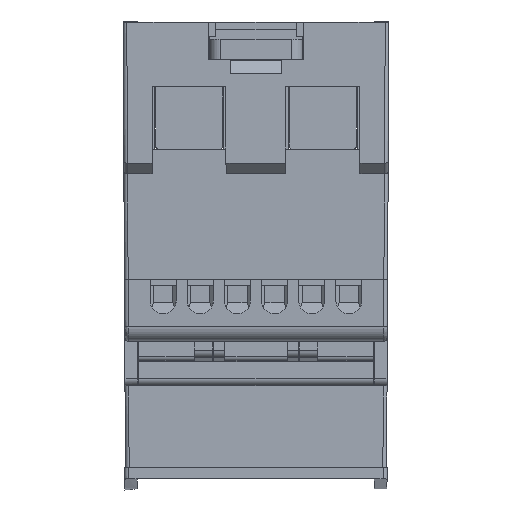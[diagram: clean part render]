
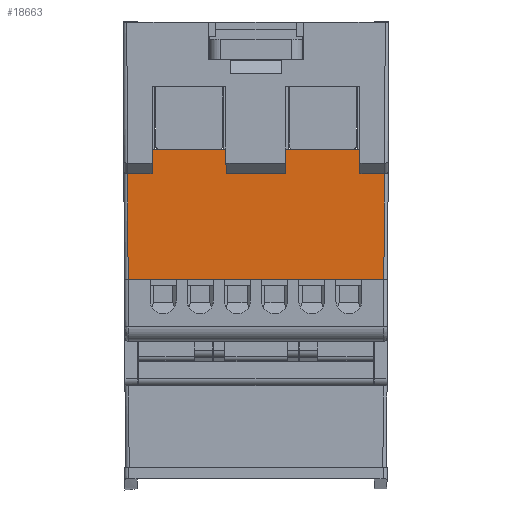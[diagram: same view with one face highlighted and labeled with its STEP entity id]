
A CAD part, front view. The second image highlights one B-rep face of the part: STEP entity #18663.
In plain terms, the highlighted planar face has unit normal (0, -1, -0.018).
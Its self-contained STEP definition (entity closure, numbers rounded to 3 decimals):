
#316=CARTESIAN_POINT('',(-17.218,-43.213,-34.7));
#329=CARTESIAN_POINT('',(17.218,-43.213,-34.7));
#2131=DIRECTION('',(-1.,0.,0.));
#2132=VECTOR('',#2131,3.294);
#2133=CARTESIAN_POINT('',(17.294,-43.462,
-20.43));
#2134=LINE('',#2133,#2132);
#2152=DIRECTION('',(-1.,0.,0.));
#2153=VECTOR('',#2152,3.294);
#2154=CARTESIAN_POINT('',(-14.,-43.462,-20.43));
#2155=LINE('',#2154,#2153);
#2173=DIRECTION('',(-1.,0.,0.));
#2174=VECTOR('',#2173,7.993);
#2175=CARTESIAN_POINT('',(4.,-43.462,-20.43));
#2176=LINE('',#2175,#2174);
#2180=DIRECTION('',(0.001,0.017,-1.));
#2181=VECTOR('',#2180,3.231);
#2182=CARTESIAN_POINT('',(-3.995,-43.518,-17.2));
#2183=LINE('',#2182,#2181);
#2187=DIRECTION('',(0.,0.017,-1.));
#2188=VECTOR('',#2187,3.231);
#2189=CARTESIAN_POINT('',(4.,-43.518,-17.2));
#2190=LINE('',#2189,#2188);
#2194=DIRECTION('',(-1.,0.,0.));
#2195=VECTOR('',#2194,10.);
#2196=CARTESIAN_POINT('',(14.,-43.518,-17.2));
#2197=LINE('',#2196,#2195);
#2201=DIRECTION('',(0.,0.017,-1.));
#2202=VECTOR('',#2201,3.231);
#2203=CARTESIAN_POINT('',(14.,-43.518,-17.2));
#2204=LINE('',#2203,#2202);
#2208=DIRECTION('',(0.005,-0.017,1.));
#2209=VECTOR('',#2208,14.272);
#2210=CARTESIAN_POINT('',(17.218,-43.213,-34.7));
#2211=LINE('',#2210,#2209);
#2215=DIRECTION('',(-1.,0.,0.));
#2216=VECTOR('',#2215,34.437);
#2217=CARTESIAN_POINT('',(17.218,-43.213,-34.7));
#2218=LINE('',#2217,#2216);
#2222=DIRECTION('',(0.005,0.017,-1.));
#2223=VECTOR('',#2222,14.272);
#2224=CARTESIAN_POINT('',(-17.294,-43.462,
-20.43));
#2225=LINE('',#2224,#2223);
#2229=DIRECTION('',(0.,0.017,-1.));
#2230=VECTOR('',#2229,3.231);
#2231=CARTESIAN_POINT('',(-14.,-43.518,-17.2));
#2232=LINE('',#2231,#2230);
#2236=DIRECTION('',(-1.,0.,0.));
#2237=VECTOR('',#2236,10.005);
#2238=CARTESIAN_POINT('',(-3.995,-43.518,-17.2));
#2239=LINE('',#2238,#2237);
#16392=CARTESIAN_POINT('',(-17.294,-43.462,
-20.43));
#16393=VERTEX_POINT('',#16392);
#16396=VERTEX_POINT('',#316);
#16399=VERTEX_POINT('',#329);
#16400=CARTESIAN_POINT('',(17.294,-43.462,
-20.43));
#16401=VERTEX_POINT('',#16400);
#16460=CARTESIAN_POINT('',(14.,-43.462,-20.43));
#16462=VERTEX_POINT('',#16460);
#16469=CARTESIAN_POINT('',(-14.,-43.462,-20.43));
#16471=VERTEX_POINT('',#16469);
#16477=CARTESIAN_POINT('',(-3.993,-43.462,
-20.43));
#16479=VERTEX_POINT('',#16477);
#16481=CARTESIAN_POINT('',(4.,-43.462,-20.43));
#16483=VERTEX_POINT('',#16481);
#16580=CARTESIAN_POINT('',(14.,-43.518,-17.2));
#16581=VERTEX_POINT('',#16580);
#16584=CARTESIAN_POINT('',(-14.,-43.518,-17.2));
#16585=VERTEX_POINT('',#16584);
#16588=CARTESIAN_POINT('',(-3.995,-43.518,-17.2));
#16589=VERTEX_POINT('',#16588);
#16590=CARTESIAN_POINT('',(4.,-43.518,-17.2));
#16591=VERTEX_POINT('',#16590);
#18641=CARTESIAN_POINT('',(-19.18,-43.649,-9.7));
#18642=DIRECTION('',(0.,1.,0.017));
#18643=DIRECTION('',(1.,0.,0.));
#18644=AXIS2_PLACEMENT_3D('',#18641,#18642,#18643);
#18645=PLANE('',#18644);
#18646=ORIENTED_EDGE('',*,*,#18548,.T.);
#18647=ORIENTED_EDGE('',*,*,#18635,.F.);
#18648=ORIENTED_EDGE('',*,*,#18308,.F.);
#18649=ORIENTED_EDGE('',*,*,#18331,.F.);
#18650=ORIENTED_EDGE('',*,*,#18393,.T.);
#18651=ORIENTED_EDGE('',*,*,#18604,.F.);
#18653=ORIENTED_EDGE('',*,*,#18652,.F.);
#18654=ORIENTED_EDGE('',*,*,#17044,.T.);
#18656=ORIENTED_EDGE('',*,*,#18655,.F.);
#18657=ORIENTED_EDGE('',*,*,#18621,.F.);
#18659=ORIENTED_EDGE('',*,*,#18658,.F.);
#18660=ORIENTED_EDGE('',*,*,#18343,.F.);
#18661=EDGE_LOOP('',(#18646,#18647,#18648,#18649,#18650,#18651,#18653,#18654,
#18656,#18657,#18659,#18660));
#18662=FACE_OUTER_BOUND('',#18661,.F.);
#17044=EDGE_CURVE('',#16399,#16396,#2218,.T.);
#18308=EDGE_CURVE('',#16591,#16483,#2190,.T.);
#18331=EDGE_CURVE('',#16581,#16591,#2197,.T.);
#18343=EDGE_CURVE('',#16589,#16585,#2239,.T.);
#18393=EDGE_CURVE('',#16581,#16462,#2204,.T.);
#18548=EDGE_CURVE('',#16589,#16479,#2183,.T.);
#18604=EDGE_CURVE('',#16401,#16462,#2134,.T.);
#18621=EDGE_CURVE('',#16471,#16393,#2155,.T.);
#18635=EDGE_CURVE('',#16483,#16479,#2176,.T.);
#18652=EDGE_CURVE('',#16399,#16401,#2211,.T.);
#18655=EDGE_CURVE('',#16393,#16396,#2225,.T.);
#18658=EDGE_CURVE('',#16585,#16471,#2232,.T.);
#18663=ADVANCED_FACE('',(#18662),#18645,.F.);
